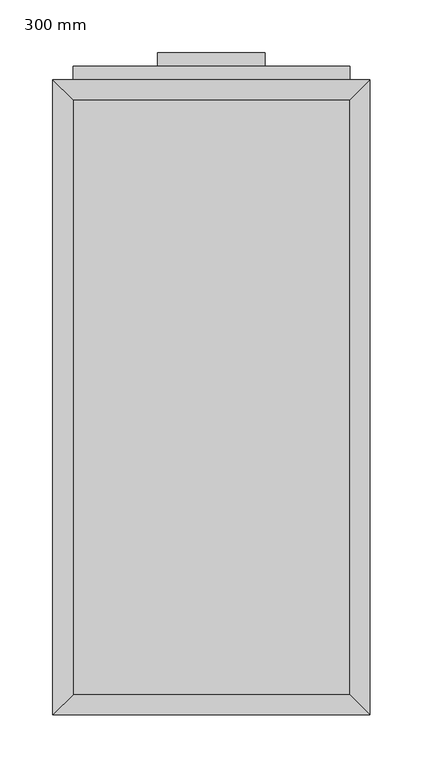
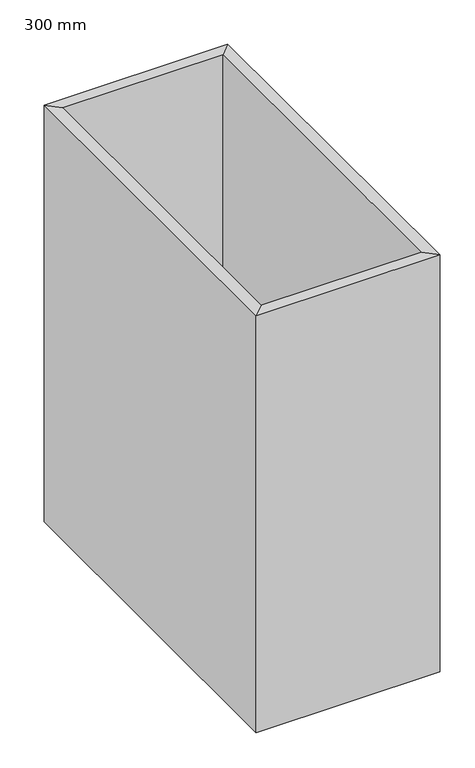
"""IFC4 building model written with IfcOpenShell, lengths in millimetres: furniture geometry, Armario 3 cajones : 300 mm."""

from ifc_helpers import new_model, si_unit, frame, origin, place, context, project, spatial, polyline, outline, extrude, faceted_brep, source, transform, mapped, element, save


def furniture_300_mm_33a7f38e(model_context):
    return source(origin(), model_context, "Body", "SolidModel", [
        extrude(outline(polyline([(149.6877049, 19.05), (-112.2122951, 19.05), (-112.2122951, 580.95), (149.6877049, 580.95), (149.6877049, 19.05)])), frame((0.0, 0.0, 150.0), z_axis=(0.0, 0.0, 1.0), x_axis=(1.0, 0.0, 0.0)), (0.0, 0.0, 1.0), 19.05),
        faceted_brep([(149.6877049, 580.95, 870.0), (-112.2122951, 580.95, 870.0), (-112.2122951, 580.95, 150.0), (149.6877049, 580.95, 150.0), (168.7377049, 600.0, 870.0), (-131.2622951, 600.0, 870.0), (168.7377049, 600.0, 150.0), (-131.2622951, 600.0, 150.0), (-112.2122951, 19.05, 870.0), (-112.2122951, 19.05, 150.0), (-131.2622951, 0.0, 870.0), (-131.2622951, 0.0, 150.0), (149.6877049, 19.05, 870.0), (149.6877049, 19.05, 150.0), (168.7377049, 0.0, 870.0), (168.7377049, 0.0, 150.0)], [[[0, 1, 2, 3]], [[4, 5, 1, 0]], [[6, 7, 5, 4]], [[3, 2, 7, 6]], [[1, 8, 9, 2]], [[5, 10, 8, 1]], [[7, 11, 10, 5]], [[2, 9, 11, 7]], [[8, 12, 13, 9]], [[10, 14, 12, 8]], [[11, 15, 14, 10]], [[9, 13, 15, 11]], [[12, 0, 3, 13]], [[14, 4, 0, 12]], [[15, 6, 4, 14]], [[13, 3, 6, 15]]]),
        extrude(outline(polyline([(149.6877049, 612.7), (149.6877049, 600.0), (-112.2122951, 600.0), (-112.2122951, 612.7), (149.6877049, 612.7)])), frame((0.0, 0.0, 703.65), z_axis=(0.0, 0.0, 1.0), x_axis=(1.0, 0.0, 0.0)), (0.0, 0.0, 1.0), 147.3),
        extrude(outline(polyline([(149.6877049, 612.7), (149.6877049, 600.0), (-112.2122951, 600.0), (-112.2122951, 612.7), (149.6877049, 612.7)])), frame((0.0, 0.0, 543.65), z_axis=(0.0, 0.0, 1.0), x_axis=(1.0, 0.0, 0.0)), (0.0, 0.0, 1.0), 147.3),
        extrude(outline(polyline([(149.6877049, 612.7), (149.6877049, 600.0), (-112.2122951, 600.0), (-112.2122951, 612.7), (149.6877049, 612.7)])), frame((0.0, 0.0, 181.75), z_axis=(0.0, 0.0, 1.0), x_axis=(1.0, 0.0, 0.0)), (0.0, 0.0, 1.0), 349.2),
        extrude(outline(polyline([(69.5377049, 625.4), (69.5377049, 612.7), (-32.0622951, 612.7), (-32.0622951, 625.4), (69.5377049, 625.4)])), frame((0.0, 0.0, 812.85), z_axis=(0.0, 0.0, 1.0), x_axis=(1.0, 0.0, 0.0)), (0.0, 0.0, 1.0), 12.7),
        extrude(outline(polyline([(69.5377049, 625.4), (69.5377049, 612.7), (-32.0622951, 612.7), (-32.0622951, 625.4), (69.5377049, 625.4)])), frame((0.0, 0.0, 652.85), z_axis=(0.0, 0.0, 1.0), x_axis=(1.0, 0.0, 0.0)), (0.0, 0.0, 1.0), 12.7),
        extrude(outline(polyline([(69.5377049, 625.4), (69.5377049, 612.7), (-32.0622951, 612.7), (-32.0622951, 625.4), (69.5377049, 625.4)])), frame((0.0, 0.0, 492.85), z_axis=(0.0, 0.0, 1.0), x_axis=(1.0, 0.0, 0.0)), (0.0, 0.0, 1.0), 12.7),
    ])


if __name__ == "__main__":
    model = new_model("IFC4")
    model_context = context("Model", 3, world=origin())
    ifc_project = project(units=[si_unit("LENGTHUNIT", "METRE", prefix="MILLI")], contexts=[model_context])
    site = spatial("IfcSite", under=ifc_project)
    building = spatial("IfcBuilding", under=site)
    placement = place(None, origin())
    furniture_300_mm_shape = furniture_300_mm_33a7f38e(model_context)
    element("IfcFurniture", 1, ObjectType="Armario 3 cajones : 300 mm", at=placement, inside=building, context=model_context, shape_type="MappedRepresentation", body=[
        mapped(furniture_300_mm_shape, transform((0.0, 0.0, 0.0), x_axis=(1.0, 0.0, 0.0), y_axis=(0.0, 1.0, 0.0), z_axis=(0.0, 0.0, 1.0))),
    ])
    save(model, "model.ifc")
